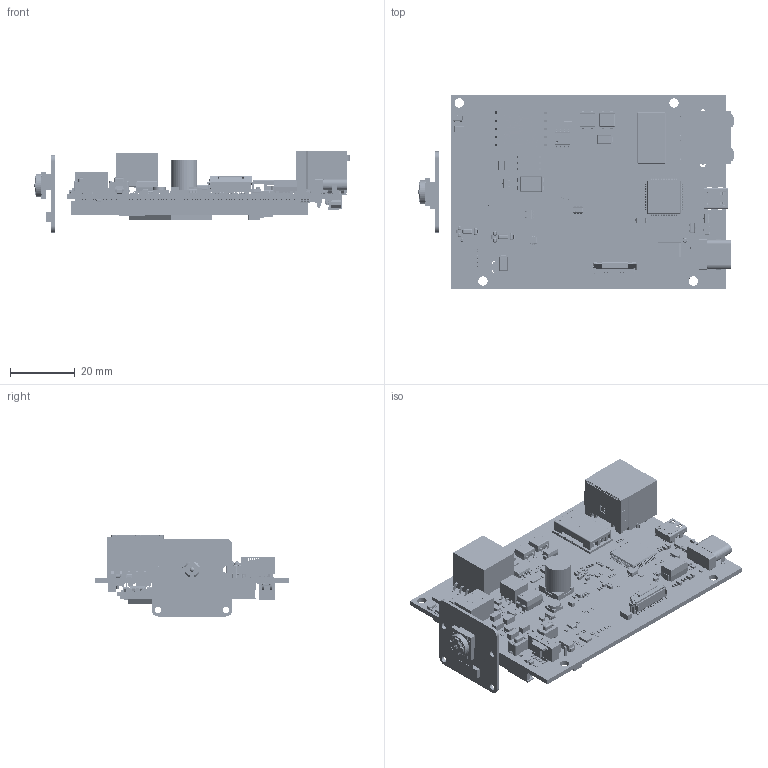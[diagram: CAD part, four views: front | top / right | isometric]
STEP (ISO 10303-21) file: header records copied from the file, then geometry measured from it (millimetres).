
FILE_DESCRIPTION(('Open CASCADE Model'),'2;1');
FILE_NAME('Open CASCADE Shape Model','2024-10-28T07:13:49',('Author'),( 'Open CASCADE'),'Open CASCADE STEP processor 7.5','Open CASCADE 7.5' ,'Unknown');
FILE_SCHEMA(('AUTOMOTIVE_DESIGN { 1 0 10303 214 1 1 1 1 }'));
Length unit declared in the file: millimetre
Products named in the file (1207): PCB; Board; Open CASCADE STEP translator 7.5 1.1.1; R130; User Library-RESC3216X06N; R129; 9010849456; Extruded; 9010849296; 9010849056; R128; C107; CAP 1210-2.8mm; C106; 9025284896; 9025285056; U16; User Library-SOT23-5-1; S2; User Library-EVQ-PE105K; S1; R127; C105; 9010852016; 9010851856; C104; T521X476M035ATE070; Case_Bottom_30; Case_Top_30; Case_Cathode_30; Case_Anode_30; U15; RWB0012A; FRAME-RWB0012A; Open CASCADE STEP translator 7.5 1.13.1.1.1; Open CASCADE STEP translator 7.5 1.13.1.1.2; Open CASCADE STEP translator 7.5 1.13.1.1.3; Open CASCADE STEP translator 7.5 1.13.1.1.4; Open CASCADE STEP translator 7.5 1.13.1.1.5; Open CASCADE STEP translator 7.5 1.13.1.1.6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
Assembly tree (3008 placements, depth 8):
  PCB
    Board
      Open CASCADE STEP translator 7.5 1.1.1
    R130
      User Library-RESC3216X06N
    R129
      9010849456  x2
        Extruded
      9010849296
        Extruded
      9010849056
        Extruded
    R128
      9010849456  x2
        Extruded
      9010849296
        Extruded
      9010849056
        Extruded
    C107
      CAP 1210-2.8mm
    C106
      9025284896  x2
        Extruded
      9025285056
        Extruded
    U16
      User Library-SOT23-5-1
    S2
      User Library-EVQ-PE105K
    S1
      User Library-EVQ-PE105K
    R127
      9010849456  x2
        Extruded
      9010849296
        Extruded
      9010849056
        Extruded
    C105
      9010852016  x2
        Extruded
      9010851856
        Extruded
    C104
      T521X476M035ATE070
        Case_Bottom_30
        Case_Top_30
        Case_Cathode_30
        Case_Anode_30
    U15
      RWB0012A
        FRAME-RWB0012A
          Open CASCADE STEP translator 7.5 1.13.1.1.1
          Open CASCADE STEP translator 7.5 1.13.1.1.2
          Open CASCADE STEP translator 7.5 1.13.1.1.3
          Open CASCADE STEP translator 7.5 1.13.1.1.4
          Open CASCADE STEP translator 7.5 1.13.1.1.5
          Open CASCADE STEP translator 7.5 1.13.1.1.6
          Open CASCADE STEP translator 7.5 1.13.1.1.7
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Bounding box: 97.76 x 60 x 25.03 mm (x, y, z)
Volume: 20780.2 mm3; surface area: 40854.1 mm2
Topology: 2599 solids, 2611 shells, 37520 faces, 92782 edges, 59670 vertices
Faces by surface type: plane 25975, cylinder 6529, bspline 3792, sphere 829, torus 330, extrusion 47, cone 18
Full cylindrical faces by diameter (mm): 0.05 x232, 0.058 x1, 0.095 x1, 0.1 x184, 0.2 x2, 0.3 x1, 0.408 x1, 0.418 x12, 0.438 x1, 0.525 x2, 0.625 x1, 0.65 x1, 0.85 x1, 0.881 x1, 0.966 x2, 0.97 x12, 1 x1, 1.15 x1, 1.5 x1, 1.65 x3, 1.8 x2, 2 x4, 2.6 x1, 2.9 x4, 3.33 x2, 4 x2, 6 x1, 6.25 x1, 7.25 x1, 8.078 x1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
Entity records: 655139 total; most frequent: CARTESIAN_POINT 150575, ORIENTED_EDGE 91153, DIRECTION 87634, EDGE_CURVE 45583, VECTOR 33206, LINE 33159, VERTEX_POINT 30000, AXIS2_PLACEMENT_3D 27214
